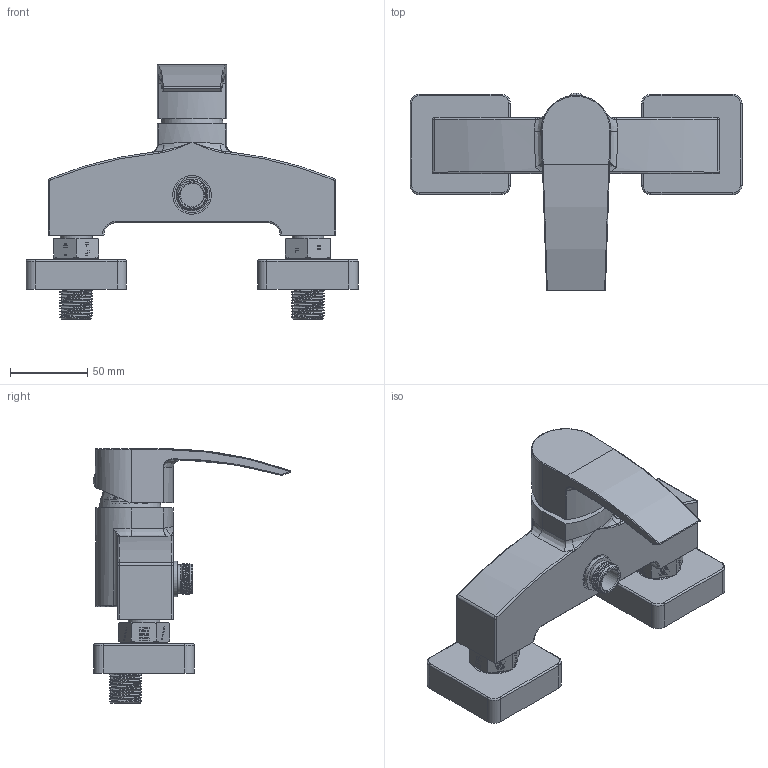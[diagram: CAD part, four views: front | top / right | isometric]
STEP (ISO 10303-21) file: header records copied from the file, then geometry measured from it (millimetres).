
FILE_DESCRIPTION(/* description */ (''),/* implementation_level */ '2;1');
FILE_NAME(/* name */ 'c:\worker\convert-fusion-r09\tmp\job-1\36\output\files\bc653b43-ee34-4395-af36-baaa54f9443d\cfce328f-1135-4cfb-9827-142f96bfe2a7.zip.stp',/* time_stamp */ '2019-12-10T08:48:10+00:00',/* author */ (''),/* organization */ (''),/* preprocessor_version */ 'ST-DEVELOPER v18',/* originating_system */ 'Autodesk Translation Framework v8.12.0.6',/* authorisation */ '');
FILE_SCHEMA (('AUTOMOTIVE_DESIGN { 1 0 10303 214 3 1 1 }'));
Products named in the file (1): !MU6140
Bounding box: 215 x 127.99 x 164.8 mm (x, y, z)
Volume: 431158.7 mm3; surface area: 132305.7 mm2
Topology: 18 solids, 18 shells, 561 faces, 1762 edges, 1254 vertices
Faces by surface type: plane 195, cylinder 176, bspline 91, cone 65, torus 30, sphere 4
Full cylindrical faces by diameter (mm): 3.2 x2, 4.2 x1, 6.7 x1, 7 x1, 9.5 x2, 10 x2, 14 x2, 15.05 x1, 16 x4, 18 x4, 18.5 x3, 19 x2, 20.5 x2, 20.6 x3, 21 x20, 23 x1, 24 x4, 25 x1, 26.4 x14, 26.6 x10, 33 x1, 36 x4
Entity records: 43351 total; most frequent: CARTESIAN_POINT 28656, ORIENTED_EDGE 3520, DIRECTION 2570, EDGE_CURVE 1760, VERTEX_POINT 1254, AXIS2_PLACEMENT_3D 1043, EDGE_LOOP 614, B_SPLINE_CURVE_WITH_KNOTS 602
